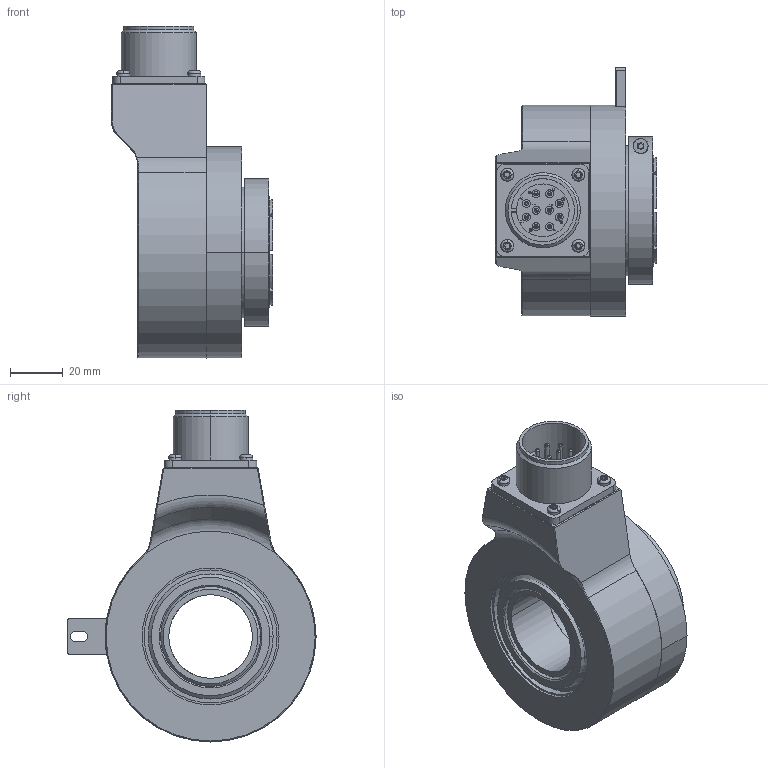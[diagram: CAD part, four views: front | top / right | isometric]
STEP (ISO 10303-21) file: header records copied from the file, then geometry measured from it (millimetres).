
FILE_DESCRIPTION (( 'STEP AP203' ), '1' );
FILE_NAME ('K80I.OXX.XXXXX.XH2189A.6XRCE.step', '2025-12-09T10:18:47', ( '' ), ( '' ), 'SwSTEP 2.0', 'SolidWorks 2021', '' );
FILE_SCHEMA (( 'CONFIG_CONTROL_DESIGN' ));
Length unit declared in the file: millimetre
Products named in the file (1): K80I.OXX.XXXXX.XH2189A.6XRCE
Bounding box: 61.2 x 94.28 x 126.08 mm (x, y, z)
Volume: 226257.6 mm3; surface area: 78506.3 mm2
Topology: 8 solids, 8 shells, 676 faces, 1728 edges, 1119 vertices
Faces by surface type: plane 292, cylinder 256, bspline 55, cone 41, torus 32
Entity records: 25033 total; most frequent: CARTESIAN_POINT 8537, ORIENTED_EDGE 3440, DIRECTION 3406, EDGE_CURVE 1720, AXIS2_PLACEMENT_3D 1250, VERTEX_POINT 1119, LINE 906, VECTOR 906
